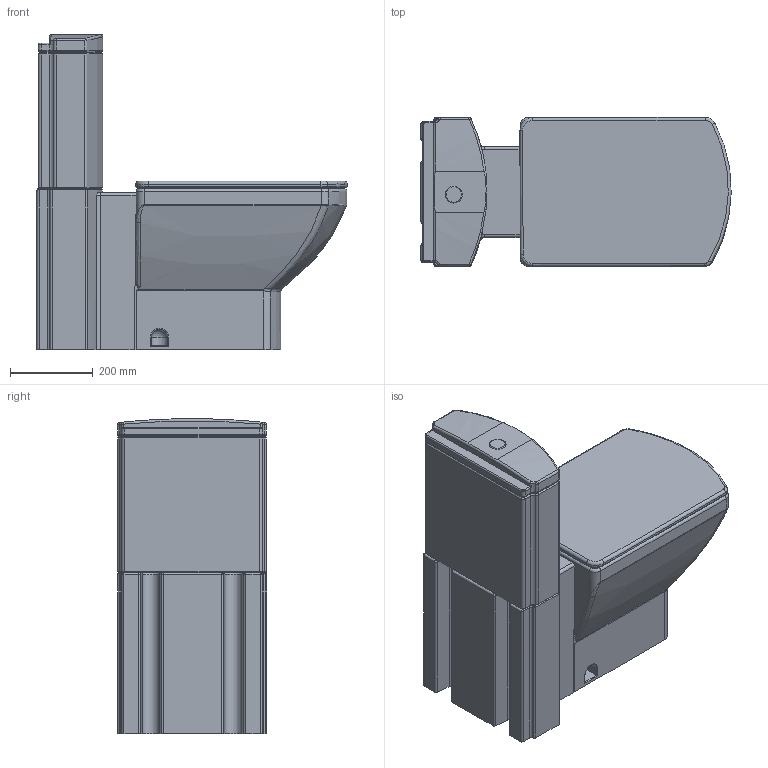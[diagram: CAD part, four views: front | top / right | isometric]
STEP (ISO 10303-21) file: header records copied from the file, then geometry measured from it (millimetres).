
FILE_DESCRIPTION((''),'2;1');
FILE_NAME('C:\Users\Administrator\Desktop\NEWS 2012_2\CARO Stand WC_010101_US\3d\stp\010101_US.stp','2012-09-20T19:54:45',('Administrator'),(''),'Autodesk Inventor 2011','Autodesk Inventor 2011','');
FILE_SCHEMA(('CONFIG_CONTROL_DESIGN'));
Length unit declared in the file: millimetre
Products named in the file (4): 010101_US; 010101_US_Deckel; 010101_US_Spülkasten
Assembly tree (3 placements, depth 2):
  010101_US
    010101_US
    010101_US_Deckel
    010101_US_Spülkasten
Bounding box: 750.99 x 360.83 x 763.83 mm (x, y, z)
Volume: 77183446.2 mm3; surface area: 2309035.3 mm2
Topology: 3 solids, 5 shells, 352 faces, 824 edges, 493 vertices
Faces by surface type: cylinder 133, plane 86, bspline 71, torus 55, sphere 7
Full cylindrical faces by diameter (mm): 15 x4, 20 x4, 75 x2, 93 x2, 103 x1
Entity records: 13170 total; most frequent: CARTESIAN_POINT 5384, DIRECTION 1589, ORIENTED_EDGE 1588, EDGE_CURVE 794, AXIS2_PLACEMENT_3D 650, VERTEX_POINT 490, EDGE_LOOP 394, CIRCLE 354
